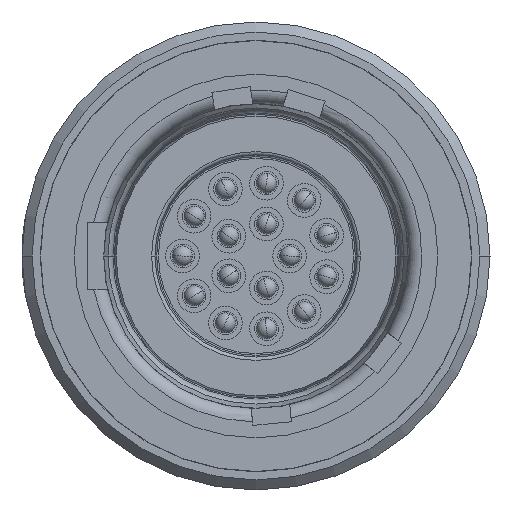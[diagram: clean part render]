
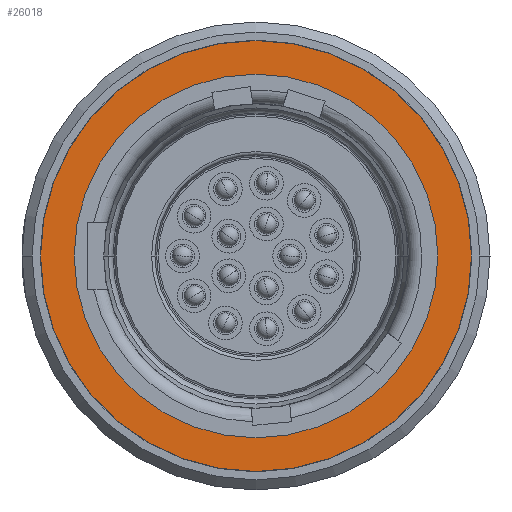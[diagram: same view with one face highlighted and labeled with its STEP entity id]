
A CAD part, left-side view. The second image highlights one B-rep face of the part: STEP entity #26018.
In plain terms, the highlighted planar face has unit normal (-1, 0, 0).
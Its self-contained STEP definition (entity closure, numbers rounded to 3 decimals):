
#5944=CARTESIAN_POINT('',(-8.01,0.,0.));
#5945=DIRECTION('',(-1.,0.,0.));
#5946=DIRECTION('',(0.,-1.,0.));
#5947=AXIS2_PLACEMENT_3D('',#5944,#5945,#5946);
#5958=CARTESIAN_POINT('',(-8.01,0.,0.));
#5959=DIRECTION('',(1.,0.,0.));
#5960=DIRECTION('',(0.,-1.,0.));
#5961=AXIS2_PLACEMENT_3D('',#5958,#5959,#5960);
#5967=CARTESIAN_POINT('',(-8.01,0.,0.));
#5968=DIRECTION('',(1.,0.,0.));
#5969=DIRECTION('',(0.,-1.,0.));
#5970=AXIS2_PLACEMENT_3D('',#5967,#5968,#5969);
#5972=CARTESIAN_POINT('',(-8.01,0.,0.));
#5973=DIRECTION('',(-1.,0.,0.));
#5974=DIRECTION('',(0.,-1.,0.));
#5975=AXIS2_PLACEMENT_3D('',#5972,#5973,#5974);
#18743=CARTESIAN_POINT('',(-8.01,-5.4,0.));
#18744=CARTESIAN_POINT('',(-8.01,5.4,0.));
#18745=VERTEX_POINT('',#18743);
#18746=VERTEX_POINT('',#18744);
#18747=CARTESIAN_POINT('',(-8.01,-6.4,0.));
#18748=CARTESIAN_POINT('',(-8.01,6.4,0.));
#18749=VERTEX_POINT('',#18747);
#18750=VERTEX_POINT('',#18748);
#26003=CARTESIAN_POINT('',(-8.01,0.,0.));
#26004=DIRECTION('',(-1.,0.,0.));
#26005=DIRECTION('',(0.,1.,0.));
#26006=AXIS2_PLACEMENT_3D('',#26003,#26004,#26005);
#26007=PLANE('',#26006);
#26008=ORIENTED_EDGE('',*,*,#25969,.F.);
#26009=ORIENTED_EDGE('',*,*,#25990,.T.);
#26010=EDGE_LOOP('',(#26008,#26009));
#26011=FACE_OUTER_BOUND('',#26010,.F.);
#26013=ORIENTED_EDGE('',*,*,#26012,.F.);
#26015=ORIENTED_EDGE('',*,*,#26014,.T.);
#26016=EDGE_LOOP('',(#26013,#26015));
#26017=FACE_BOUND('',#26016,.F.);
#5948=CIRCLE('',#5947,6.4);
#5962=CIRCLE('',#5961,6.4);
#5971=CIRCLE('',#5970,5.4);
#5976=CIRCLE('',#5975,5.4);
#25969=EDGE_CURVE('',#18749,#18750,#5948,.T.);
#25990=EDGE_CURVE('',#18749,#18750,#5962,.T.);
#26012=EDGE_CURVE('',#18745,#18746,#5971,.T.);
#26014=EDGE_CURVE('',#18745,#18746,#5976,.T.);
#26018=ADVANCED_FACE('',(#26011,#26017),#26007,.T.);
